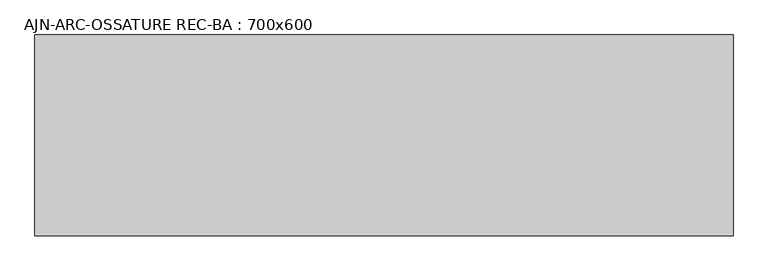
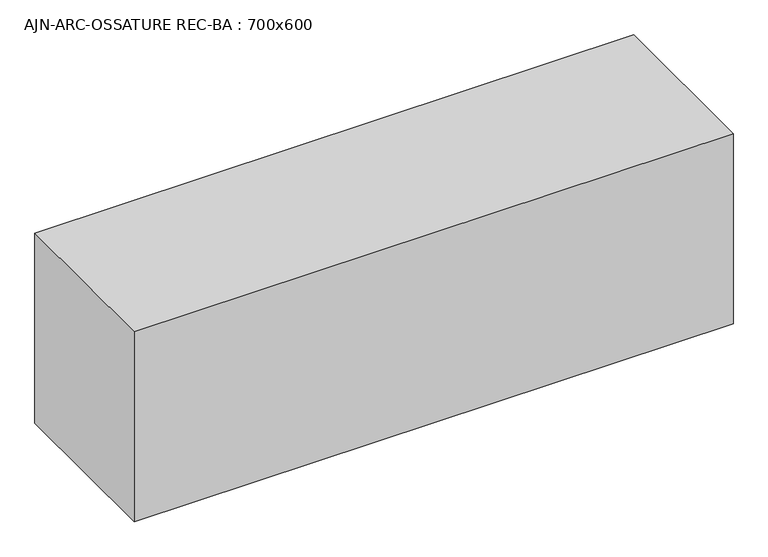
"""IFC4 building model written with IfcOpenShell, lengths in millimetres: beam geometry, AJN-ARC-OSSATURE REC-BA : 700x600."""

from ifc_helpers import new_model, si_unit, frame, origin, place, context, project, spatial, polyline, outline, extrude, source, transform, mapped, element, save


def ajn_arc_ossature_rec_ba_700x600_cb3e513f(model_context):
    return source(origin(), model_context, "Body", "SweptSolid", [
        extrude(outline(polyline([(737.3, 300.0), (737.3, -300.0), (-1350.0, -300.0), (-1350.0, 300.0), (737.3, 300.0)])), frame((0.0, 0.0, -350.0), z_axis=(0.0, 0.0, 1.0), x_axis=(1.0, 0.0, 0.0)), (0.0, 0.0, 1.0), 700.0),
    ])


if __name__ == "__main__":
    model = new_model("IFC4")
    model_context = context("Model", 3, world=origin())
    ifc_project = project(units=[si_unit("LENGTHUNIT", "METRE", prefix="MILLI")], contexts=[model_context])
    site = spatial("IfcSite", under=ifc_project)
    building = spatial("IfcBuilding", under=site)
    placement = place(None, origin())
    ajn_arc_ossature_rec_ba_700x600_shape = ajn_arc_ossature_rec_ba_700x600_cb3e513f(model_context)
    element("IfcBeam", 1, ObjectType="AJN-ARC-OSSATURE REC-BA : 700x600", at=placement, inside=building, context=model_context, shape_type="MappedRepresentation", body=[
        mapped(ajn_arc_ossature_rec_ba_700x600_shape, transform((0.0, 0.0, 0.0), x_axis=(1.0, 0.0, 0.0), y_axis=(0.0, 1.0, 0.0), z_axis=(0.0, 0.0, 1.0))),
    ])
    save(model, "model.ifc")
